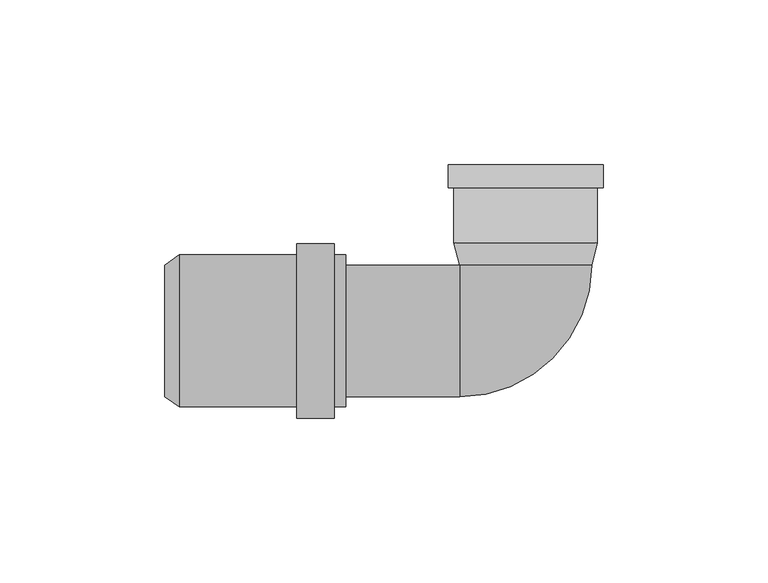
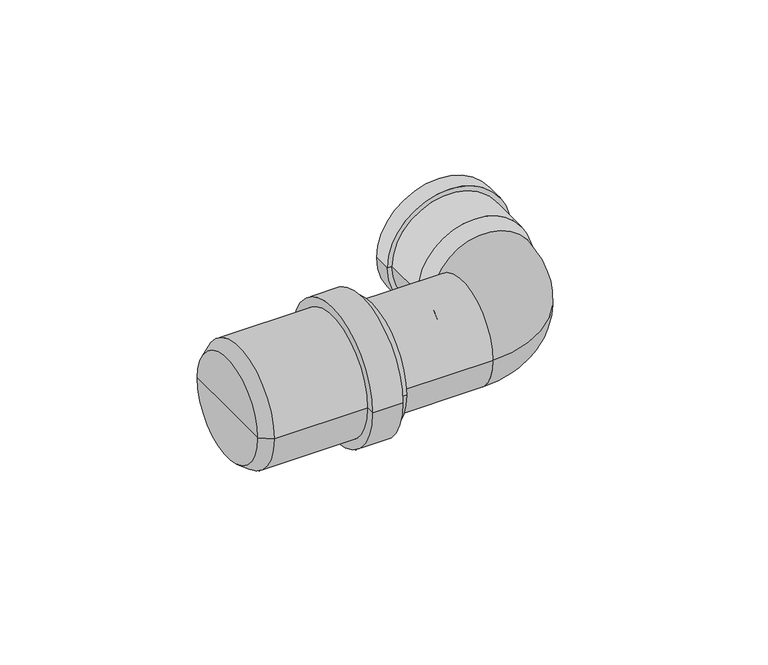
"""IFC4 building model written with IfcOpenShell, lengths in millimetres: pipe fitting geometry, pf_HTSW : pf_HTSW."""

from ifc_helpers import new_model, si_unit, point, frame, origin, origin_2d, place, context, project, spatial, polyline, circle_curve, ellipse_curve, trimmed, segment, composite_curve, outline, extrude, source, transform, mapped, element, save
from ifc_brep_helpers import plane_surface, cylinder_surface, revolved_surface, advanced_brep


def pipe_fitting_2ed9f6e7(model_context):
    return source(origin(), model_context, "Body", "SolidModel", [
        advanced_brep(
        [(-109.7, -20.0, 0.0), (-109.7, 20.0, 0.0), (-105.3, 23.1, 0.0), (-105.3, -23.1, 0.0), (-109.7, 0.0, 0.0), (-54.7, -23.1, 0.0), (-54.7, 23.1, 0.0), (-54.7, 20.0, 0.0), (-54.7, -20.0, 0.0), (-58.1, -23.1, 0.0), (-58.1, 23.1, 0.0), (-58.1, -26.5, 0.0), (-58.1, 26.5, 0.0), (-69.5, -26.5, 0.0), (-69.5, 26.5, 0.0), (-69.5, -23.1, 0.0), (-69.5, 23.1, 0.0), (-105.3, -20.0, 0.0), (-105.3, 20.0, 0.0), (-105.3, 0.0, 0.0)],
        [
            (0, 1, circle_curve(frame((-109.7, 0.0, 0.0), z_axis=(1.0, 0.0, 0.0), x_axis=(0.0, 1.0, 0.0)), 20.0)),
            (1, 2),
            (2, 3, circle_curve(frame((-105.3, 0.0, 0.0), z_axis=(-1.0, 0.0, 0.0), x_axis=(0.0, 1.0, 0.0)), 23.1)),
            (3, 0),
            (1, 0, circle_curve(frame((-109.7, 0.0, 0.0), z_axis=(1.0, 0.0, 0.0), x_axis=(0.0, 1.0, 0.0)), 20.0)),
            (3, 2, circle_curve(frame((-105.3, 0.0, 0.0), z_axis=(-1.0, 0.0, 0.0), x_axis=(0.0, 1.0, 0.0)), 23.1)),
            (4, 1),
            (0, 4),
            (5, 6, circle_curve(frame((-54.7, 0.0, 0.0), z_axis=(1.0, 0.0, 0.0), x_axis=(0.0, 1.0, 0.0)), 23.1)),
            (6, 7),
            (7, 8, circle_curve(frame((-54.7, 0.0, 0.0), z_axis=(-1.0, 0.0, 0.0), x_axis=(0.0, 1.0, 0.0)), 20.0)),
            (8, 5),
            (6, 5, circle_curve(frame((-54.7, 0.0, 0.0), z_axis=(1.0, 0.0, 0.0), x_axis=(0.0, 1.0, 0.0)), 23.1)),
            (8, 7, circle_curve(frame((-54.7, 0.0, 0.0), z_axis=(-1.0, 0.0, 0.0), x_axis=(0.0, 1.0, 0.0)), 20.0)),
            (9, 10, circle_curve(frame((-58.1, 0.0, 0.0), z_axis=(1.0, 0.0, 0.0), x_axis=(0.0, 1.0, 0.0)), 23.1)),
            (10, 6),
            (5, 9),
            (10, 9, circle_curve(frame((-58.1, 0.0, 0.0), z_axis=(1.0, 0.0, 0.0), x_axis=(0.0, 1.0, 0.0)), 23.1)),
            (11, 12, circle_curve(frame((-58.1, 0.0, 0.0), z_axis=(1.0, 0.0, 0.0), x_axis=(0.0, 1.0, 0.0)), 26.5)),
            (12, 10),
            (9, 11),
            (12, 11, circle_curve(frame((-58.1, 0.0, 0.0), z_axis=(1.0, 0.0, 0.0), x_axis=(0.0, 1.0, 0.0)), 26.5)),
            (13, 14, circle_curve(frame((-69.5, 0.0, 0.0), z_axis=(1.0, 0.0, 0.0), x_axis=(0.0, 1.0, 0.0)), 26.5)),
            (14, 12),
            (11, 13),
            (14, 13, circle_curve(frame((-69.5, 0.0, 0.0), z_axis=(1.0, 0.0, 0.0), x_axis=(0.0, 1.0, 0.0)), 26.5)),
            (15, 16, circle_curve(frame((-69.5, 0.0, 0.0), z_axis=(1.0, 0.0, 0.0), x_axis=(0.0, 1.0, 0.0)), 23.1)),
            (16, 14),
            (13, 15),
            (16, 15, circle_curve(frame((-69.5, 0.0, 0.0), z_axis=(1.0, 0.0, 0.0), x_axis=(0.0, 1.0, 0.0)), 23.1)),
            (2, 16),
            (15, 3),
            (17, 18, circle_curve(frame((-105.3, 0.0, 0.0), z_axis=(1.0, 0.0, 0.0), x_axis=(0.0, 1.0, 0.0)), 20.0)),
            (18, 19),
            (19, 17),
            (18, 17, circle_curve(frame((-105.3, 0.0, 0.0), z_axis=(1.0, 0.0, 0.0), x_axis=(0.0, 1.0, 0.0)), 20.0)),
            (7, 18),
            (17, 8),
        ],
        [
            revolved_surface(polyline([(-105.3, 23.1, 0.0), (-109.7, 20.0, 0.0)]), (-109.7, 0.0, 0.0), (-1.0, 0.0, 0.0)),
            plane_surface(frame((-109.7, 0.0, 0.0), z_axis=(-1.0, 0.0, 0.0), x_axis=(0.0, 1.0, 0.0))),
            plane_surface(frame((-54.7, 0.0, 0.0), z_axis=(1.0, 0.0, 0.0), x_axis=(0.0, 1.0, 0.0))),
            cylinder_surface(frame((-109.7, 0.0, 0.0), z_axis=(-1.0, 0.0, 0.0), x_axis=(0.0, 1.0, 0.0)), 23.1),
            plane_surface(frame((-58.1, 0.0, 0.0), z_axis=(1.0, 0.0, 0.0), x_axis=(0.0, 1.0, 0.0))),
            cylinder_surface(frame((-109.7, 0.0, 0.0), z_axis=(-1.0, 0.0, 0.0), x_axis=(0.0, 1.0, 0.0)), 26.5),
            plane_surface(frame((-69.5, 0.0, 0.0), z_axis=(-1.0, 0.0, 0.0), x_axis=(0.0, 1.0, 0.0))),
            plane_surface(frame((-105.3, 0.0, 0.0), z_axis=(1.0, 0.0, 0.0), x_axis=(0.0, 1.0, 0.0))),
            revolved_surface(polyline([(-105.3, 20.0, 0.0), (-54.7, 20.0, 0.0)]), (-109.7, 0.0, 0.0), (-1.0, 0.0, 0.0)),
        ],
        [
            (0, [[1, 2, 3, 4]]),
            (0, [[5, -4, 6, -2]]),
            (1, [[7, -1, 8]]),
            (1, [[-8, -5, -7]]),
            (2, [[9, 10, 11, 12]]),
            (2, [[13, -12, 14, -10]]),
            (3, [[15, 16, -9, 17]]),
            (3, [[18, -17, -13, -16]]),
            (4, [[19, 20, -15, 21]]),
            (4, [[22, -21, -18, -20]]),
            (5, [[23, 24, -19, 25]]),
            (5, [[26, -25, -22, -24]]),
            (6, [[27, 28, -23, 29]]),
            (6, [[30, -29, -26, -28]]),
            (3, [[-3, 31, -27, 32]]),
            (3, [[-6, -32, -30, -31]]),
            (7, [[33, 34, 35]]),
            (7, [[36, -35, -34]]),
            (8, [[-11, 37, -33, 38]]),
            (8, [[-14, -38, -36, -37]]),
        ],
    ),
        extrude(outline(composite_curve([segment(trimmed(circle_curve(origin_2d(), 20.0), [point((-20.0, 0.0))], [point((20.0, 0.0))], False, "CARTESIAN"), True, "CONTINUOUS"), segment(trimmed(circle_curve(origin_2d(), 20.0), [point((20.0, 0.0))], [point((-20.0, 0.0))], False, "CARTESIAN"), True, "CONTINUOUS")], self_intersect=False)), frame((-54.7, 0.0, 0.0), z_axis=(1.0, 0.0, 0.0), x_axis=(0.0, 1.0, 0.0)), (0.0, 0.0, 1.0), 34.7),
        advanced_brep(
        [(20.0, 20.0, 0.0), (-20.0, 20.0, 0.0), (-20.0, -20.0, 0.0)],
        [
            (0, 1, circle_curve(frame((0.0, 20.0, 0.0), z_axis=(0.0, 1.0, 0.0), x_axis=(-1.0, 0.0, 0.0)), 20.0)),
            (1, 0, circle_curve(frame((0.0, 20.0, 0.0), z_axis=(0.0, 1.0, 0.0), x_axis=(-1.0, 0.0, 0.0)), 20.0)),
            (2, 1, circle_curve(frame((-20.0, 0.0, 0.0), z_axis=(-1.0, 0.0, 0.0), x_axis=(0.0, 1.0, 0.0)), 20.0)),
            (1, 2, circle_curve(frame((-20.0, 0.0, 0.0), z_axis=(-1.0, 0.0, 0.0), x_axis=(0.0, 1.0, 0.0)), 20.0)),
            (0, 2, circle_curve(frame((-20.0, 20.0, 0.0), z_axis=(0.0, 0.0, -1.0), x_axis=(1.0, 0.0, 0.0)), 40.0)),
        ],
        [
            plane_surface(frame((-20.0, 20.0, -14.8), z_axis=(0.0, 1.0, 0.0), x_axis=(1.0, 0.0, 0.0))),
            plane_surface(frame((-20.0, 20.0, -14.8), z_axis=(-1.0, 0.0, 0.0), x_axis=(0.0, -1.0, 0.0))),
            revolved_surface(trimmed(ellipse_curve(frame((0.0, 20.0, 0.0), z_axis=(0.0, 1.0, 0.0), x_axis=(-1.0, 0.0, 0.0)), 20.0, 20.0), [point((20.0, 20.0, 0.0))], [point((-20.0, 20.0, 0.0))], True, "CARTESIAN"), (-20.0, 20.0, -14.8), (0.0, 0.0, -1.0)),
            revolved_surface(trimmed(ellipse_curve(frame((0.0, 20.0, 0.0), z_axis=(0.0, 1.0, 0.0), x_axis=(-1.0, 0.0, 0.0)), 20.0, 20.0), [point((-20.0, 20.0, 0.0))], [point((20.0, 20.0, 0.0))], True, "CARTESIAN"), (-20.0, 20.0, -14.8), (0.0, 0.0, -1.0)),
        ],
        [
            (0, [[1, 2]]),
            (1, [[3, 4]]),
            (2, [[-1, 5, -4]]),
            (3, [[-5, -2, -3]]),
        ],
    ),
        advanced_brep(
        [(20.0, 50.5, 0.0), (-20.0, 50.5, 0.0), (-20.0, 26.7, 0.0), (20.0, 26.7, 0.0), (23.6, 50.5, 0.0), (-23.6, 50.5, 0.0), (21.8, 26.7, 0.0), (-21.8, 26.7, 0.0), (-21.8, 43.5184027, 0.0), (21.8, 43.5184027, 0.0), (20.0, 20.0, 0.0), (-20.0, 20.0, 0.0), (0.0, 20.0, 0.0), (-23.6, 43.5184027, 0.0), (23.6, 43.5184027, 0.0), (0.0, 26.7, 0.0)],
        [
            (0, 1, circle_curve(frame((0.0, 50.5, 0.0), z_axis=(0.0, 1.0, 0.0), x_axis=(-1.0, 0.0, 0.0)), 20.0)),
            (1, 2),
            (2, 3, circle_curve(frame((0.0, 26.7, 0.0), z_axis=(0.0, -1.0, 0.0), x_axis=(-1.0, 0.0, 0.0)), 20.0)),
            (3, 0),
            (4, 5, circle_curve(frame((0.0, 50.5, 0.0), z_axis=(0.0, 1.0, 0.0), x_axis=(-1.0, 0.0, 0.0)), 23.6)),
            (5, 1),
            (0, 4),
            (6, 7, circle_curve(frame((0.0, 26.7, 0.0), z_axis=(0.0, 1.0, 0.0), x_axis=(-1.0, 0.0, 0.0)), 21.8)),
            (7, 8),
            (8, 9, circle_curve(frame((0.0, 43.5184027, 0.0), z_axis=(0.0, -1.0, 0.0), x_axis=(-1.0, 0.0, 0.0)), 21.8)),
            (9, 6),
            (10, 11, circle_curve(frame((0.0, 20.0, 0.0), z_axis=(0.0, 1.0, 0.0), x_axis=(-1.0, 0.0, 0.0)), 20.0)),
            (11, 7),
            (6, 10),
            (12, 11),
            (10, 12),
            (8, 13),
            (13, 14, circle_curve(frame((0.0, 43.5184027, 0.0), z_axis=(0.0, -1.0, 0.0), x_axis=(-1.0, 0.0, 0.0)), 23.6)),
            (14, 9),
            (1, 0, circle_curve(frame((0.0, 50.5, 0.0), z_axis=(0.0, 1.0, 0.0), x_axis=(-1.0, 0.0, 0.0)), 20.0)),
            (3, 2, circle_curve(frame((0.0, 26.7, 0.0), z_axis=(0.0, -1.0, 0.0), x_axis=(-1.0, 0.0, 0.0)), 20.0)),
            (5, 4, circle_curve(frame((0.0, 50.5, 0.0), z_axis=(0.0, 1.0, 0.0), x_axis=(-1.0, 0.0, 0.0)), 23.6)),
            (13, 5),
            (4, 14),
            (13, 14, circle_curve(frame((0.0, 43.5184027, 0.0), z_axis=(0.0, 1.0, 0.0), x_axis=(-1.0, 0.0, 0.0)), 23.6)),
            (8, 9, circle_curve(frame((0.0, 43.5184027, 0.0), z_axis=(0.0, 1.0, 0.0), x_axis=(-1.0, 0.0, 0.0)), 21.8)),
            (7, 6, circle_curve(frame((0.0, 26.7, 0.0), z_axis=(0.0, 1.0, 0.0), x_axis=(-1.0, 0.0, 0.0)), 21.8)),
            (11, 10, circle_curve(frame((0.0, 20.0, 0.0), z_axis=(0.0, 1.0, 0.0), x_axis=(-1.0, 0.0, 0.0)), 20.0)),
            (2, 15),
            (15, 3),
        ],
        [
            revolved_surface(polyline([(-20.0, 26.7, 0.0), (-20.0, 50.5, 0.0)]), (0.0, 50.5, 0.0), (0.0, -1.0, 0.0)),
            plane_surface(frame((0.0, 50.5, 0.0), z_axis=(0.0, 1.0, 0.0), x_axis=(-1.0, 0.0, 0.0))),
            cylinder_surface(frame((0.0, 50.5, 0.0), z_axis=(0.0, -1.0, 0.0), x_axis=(-1.0, 0.0, 0.0)), 21.8),
            revolved_surface(polyline([(-21.8, 26.7, 0.0), (-20.0, 20.0, 0.0)]), (0.0, 50.5, 0.0), (0.0, -1.0, 0.0)),
            plane_surface(frame((0.0, 20.0, 0.0), z_axis=(0.0, -1.0, 0.0), x_axis=(-1.0, 0.0, 0.0))),
            plane_surface(frame((0.0, 43.5184027, 0.0), z_axis=(0.0, -1.0, 0.0), x_axis=(-1.0, 0.0, 0.0))),
            cylinder_surface(frame((0.0, 50.5, 0.0), z_axis=(0.0, -1.0, 0.0), x_axis=(-1.0, 0.0, 0.0)), 23.6),
            plane_surface(frame((0.0, 26.7, 0.0), z_axis=(0.0, 1.0, 0.0), x_axis=(-1.0, 0.0, 0.0))),
        ],
        [
            (0, [[1, 2, 3, 4]]),
            (1, [[5, 6, -1, 7]]),
            (2, [[8, 9, 10, 11]]),
            (3, [[12, 13, -8, 14]]),
            (4, [[15, -12, 16]]),
            (5, [[-10, 17, 18, 19]]),
            (0, [[20, -4, 21, -2]]),
            (1, [[22, -7, -20, -6]]),
            (6, [[-18, 23, -5, 24]]),
            (6, [[25, -24, -22, -23]]),
            (5, [[26, -19, -25, -17]]),
            (2, [[27, -11, -26, -9]]),
            (3, [[28, -14, -27, -13]]),
            (4, [[-16, -28, -15]]),
            (7, [[-3, 29, 30]]),
            (7, [[-21, -30, -29]]),
        ],
    ),
    ])


if __name__ == "__main__":
    model = new_model("IFC4")
    model_context = context("Model", 3, world=origin())
    ifc_project = project(units=[si_unit("LENGTHUNIT", "METRE", prefix="MILLI")], contexts=[model_context])
    site = spatial("IfcSite", under=ifc_project)
    building = spatial("IfcBuilding", under=site)
    placement = place(None, origin())
    pipe_fitting_shape = pipe_fitting_2ed9f6e7(model_context)
    element("IfcPipeFitting", 1, ObjectType="pf_HTSW : pf_HTSW", at=placement, inside=building, context=model_context, shape_type="MappedRepresentation", body=[
        mapped(pipe_fitting_shape, transform((0.0, 0.0, 0.0), x_axis=(1.0, 0.0, 0.0), y_axis=(0.0, 1.0, 0.0), z_axis=(0.0, 0.0, 1.0))),
    ])
    save(model, "model.ifc")
